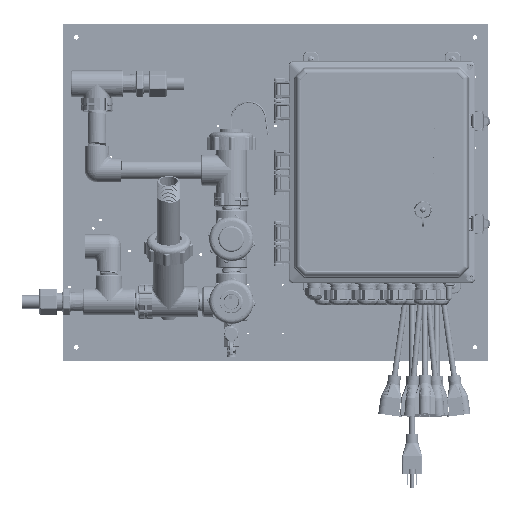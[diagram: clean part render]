
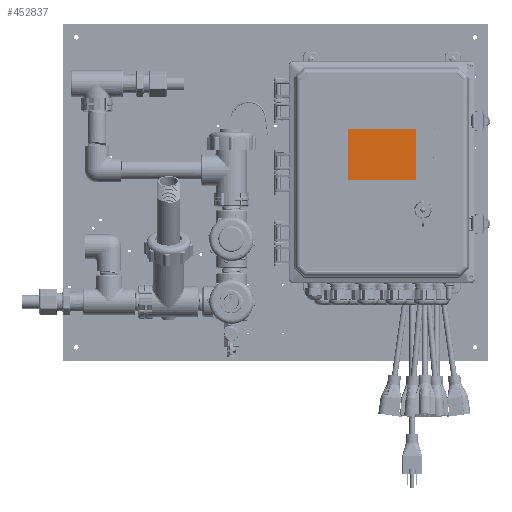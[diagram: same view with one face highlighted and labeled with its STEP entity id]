
A CAD part, top view. The second image highlights one B-rep face of the part: STEP entity #452837.
In plain terms, the highlighted planar face has unit normal (0, 0, 1) as drawn and (0, 0.819, -0.574) by its records, which use the part's own axes.
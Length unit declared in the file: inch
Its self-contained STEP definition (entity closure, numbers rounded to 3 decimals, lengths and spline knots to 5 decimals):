
#11672 = CARTESIAN_POINT ( 'NONE',  ( 0., 2.53611, -1.77631 ) ) ;
#47468 = CARTESIAN_POINT ( 'NONE',  ( -0.83809, 5.06542, 1.8349 ) ) ;
#98570 = EDGE_LOOP ( 'NONE', ( #371395, #203308, #215695, #680779 ) ) ;
#99094 = EDGE_CURVE ( 'NONE', #628718, #180939, #640417, .T. ) ;
#104500 = CARTESIAN_POINT ( 'NONE',  ( -3.75195, 7.27913, 4.9955 ) ) ;
#107784 = VECTOR ( 'NONE', #611240, 39.37008 ) ;
#134020 = LINE ( 'NONE', #372603, #107784 ) ;
#180939 = VERTEX_POINT ( 'NONE', #340368 ) ;
#203308 = ORIENTED_EDGE ( 'NONE', *, *, #99094, .T. ) ;
#215401 = CARTESIAN_POINT ( 'NONE',  ( -3.75195, 7.27913, 4.9955 ) ) ;
#215695 = ORIENTED_EDGE ( 'NONE', *, *, #418347, .T. ) ;
#219938 = CARTESIAN_POINT ( 'NONE',  ( -3.75195, 5.06542, 1.8349 ) ) ;
#249955 = VECTOR ( 'NONE', #286075, 39.37008 ) ;
#250304 = DIRECTION ( 'NONE',  ( 0., 0.819, -0.574 ) ) ;
#262277 = EDGE_CURVE ( 'NONE', #680373, #628718, #755787, .T. ) ;
#286075 = DIRECTION ( 'NONE',  ( 0., -0.574, -0.819 ) ) ;
#308963 = FACE_OUTER_BOUND ( 'NONE', #98570, .T. ) ;
#315930 = AXIS2_PLACEMENT_3D ( 'NONE', #11672, #250304, #488968 ) ;
#340368 = CARTESIAN_POINT ( 'NONE',  ( -0.83809, 7.27913, 4.9955 ) ) ;
#343112 = DIRECTION ( 'NONE',  ( 1., 0., 0. ) ) ;
#371395 = ORIENTED_EDGE ( 'NONE', *, *, #262277, .T. ) ;
#372603 = CARTESIAN_POINT ( 'NONE',  ( -3.75195, 5.06542, 1.8349 ) ) ;
#418347 = EDGE_CURVE ( 'NONE', #180939, #618439, #583421, .T. ) ;
#418682 = VECTOR ( 'NONE', #458555, 39.37008 ) ;
#439940 = VECTOR ( 'NONE', #343112, 39.37008 ) ;
#452837 = ADVANCED_FACE ( 'NONE', ( #308963 ), #547636, .T. ) ;
#458555 = DIRECTION ( 'NONE',  ( 0., 0.574, 0.819 ) ) ;
#488968 = DIRECTION ( 'NONE',  ( 0., 0.574, 0.819 ) ) ;
#490347 = EDGE_CURVE ( 'NONE', #618439, #680373, #134020, .T. ) ;
#547636 = PLANE ( 'NONE',  #315930 ) ;
#583421 = LINE ( 'NONE', #47468, #249955 ) ;
#588825 = CARTESIAN_POINT ( 'NONE',  ( -0.83809, 5.06542, 1.8349 ) ) ;
#611240 = DIRECTION ( 'NONE',  ( -1., 0., 0. ) ) ;
#618439 = VERTEX_POINT ( 'NONE', #588825 ) ;
#628718 = VERTEX_POINT ( 'NONE', #215401 ) ;
#640417 = LINE ( 'NONE', #104500, #439940 ) ;
#680373 = VERTEX_POINT ( 'NONE', #735673 ) ;
#680779 = ORIENTED_EDGE ( 'NONE', *, *, #490347, .T. ) ;
#735673 = CARTESIAN_POINT ( 'NONE',  ( -3.75195, 5.06542, 1.8349 ) ) ;
#755787 = LINE ( 'NONE', #219938, #418682 ) ;
